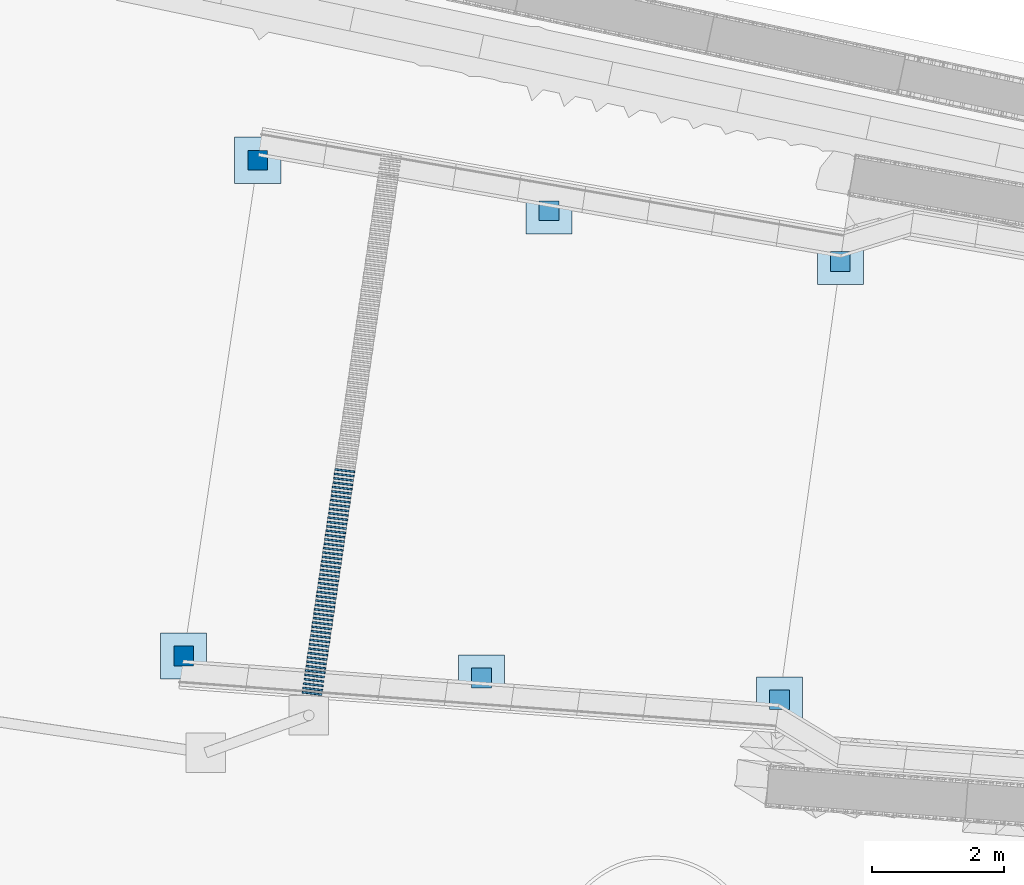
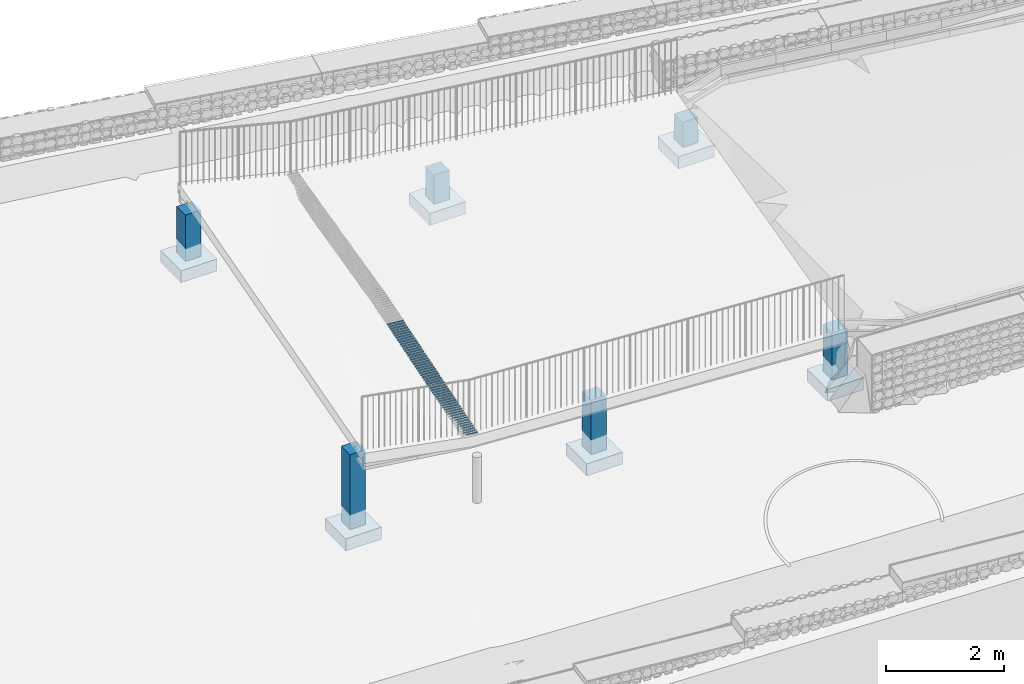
# Not in any storey, part 1 of 45: 52 members, 6 columns, 6 footings.
"""IFC4 model written with IfcOpenShell, lengths in metres."""

from ifc_helpers import new_model, si_unit, direction, frame, origin_with_axes, place, context, subcontext, project, spatial, polyline, rectangle, outline, extrude, material, material_profile, profile_set, profile_usage, type_object, element, save


model = new_model("IFC4")

# Units and contexts
model_context = context("Model", 3, precision=1e-05, world=origin_with_axes(), true_north=direction((0.0, 1.0)))
body_context = subcontext(model_context, "Body", "Model", "MODEL_VIEW")
ifc_project = project(units=[si_unit("VOLUMEUNIT", "CUBIC_METRE"), si_unit("LENGTHUNIT", "METRE"), si_unit("AREAUNIT", "SQUARE_METRE")], contexts=[model_context])

# Site
site_placement = place(None, origin_with_axes())
site = spatial("IfcSite", under=ifc_project, at=site_placement, Name="Lares · Rua das Mercês · artigo 4771")

# Footings
ifc_material_1 = material(Name="Betão armado / Stahlbeton", Category="concrete")
footing_1_placement = place(site_placement, frame((0.0369523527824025, 0.247253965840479, 13.743334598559), z_axis=(0.0, 0.0, 1.0), x_axis=(1.0, -1.03767253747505e-17, 0.0)))
element("IfcFooting", 1, at=footing_1_placement, inside=site, material=ifc_material_1, Name="Acesso · sapata pontual", PredefinedType="PAD_FOOTING", context=body_context, shape_type="SweptSolid", body=[
    extrude(outline(polyline([(47.0240474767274, 3.09962269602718), (47.0240474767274, 3.79962269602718), (46.3240474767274, 3.79962269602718), (46.3240474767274, 3.09962269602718), (47.0240474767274, 3.09962269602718)])), origin_with_axes(), (0.0, 0.0, 1.0), 0.25),
])
footing_2_placement = place(site_placement, frame((-0.0369523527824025, -0.247253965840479, 14.3342466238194), z_axis=(0.0, 0.0, 1.0), x_axis=(1.0, -1.03767253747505e-17, 0.0)))
element("IfcFooting", 2, at=footing_2_placement, inside=site, material=ifc_material_1, Name="Acesso · sapata pontual", PredefinedType="PAD_FOOTING", context=body_context, shape_type="SweptSolid", body=[
    extrude(outline(polyline([(48.2213037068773, 11.1106511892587), (48.2213037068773, 11.8106511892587), (47.5213037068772, 11.8106511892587), (47.5213037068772, 11.1106511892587), (48.2213037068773, 11.1106511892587)])), origin_with_axes(), (0.0, 0.0, 1.0), 0.25),
])
footing_3_placement = place(site_placement, frame((0.0357165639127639, 0.247435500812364, 13.9121434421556), z_axis=(0.0, 0.0, 1.0), x_axis=(1.0, -1.03767253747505e-17, 0.0)))
element("IfcFooting", 3, at=footing_3_placement, inside=site, material=ifc_material_1, Name="Acesso · sapata pontual", PredefinedType="PAD_FOOTING", context=body_context, shape_type="SweptSolid", body=[
    extrude(outline(polyline([(51.5422017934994, 2.76756522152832), (51.5422017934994, 3.46756522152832), (50.8422017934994, 3.46756522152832), (50.8422017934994, 2.76756522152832), (51.5422017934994, 2.76756522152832)])), origin_with_axes(), (0.0, 0.0, 1.0), 0.25),
])
footing_4_placement = place(site_placement, frame((-0.0357165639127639, -0.247435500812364, 14.435233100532), z_axis=(0.0, 0.0, 1.0), x_axis=(1.0, -1.03767253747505e-17, 0.0)))
element("IfcFooting", 4, at=footing_4_placement, inside=site, material=ifc_material_1, Name="Acesso · sapata pontual", PredefinedType="PAD_FOOTING", context=body_context, shape_type="SweptSolid", body=[
    extrude(outline(polyline([(52.6358100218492, 10.3438119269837), (52.6358100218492, 11.0438119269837), (51.9358100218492, 11.0438119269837), (51.9358100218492, 10.3438119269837), (52.6358100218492, 10.3438119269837)])), origin_with_axes(), (0.0, 0.0, 1.0), 0.25),
])
footing_5_placement = place(site_placement, frame((0.0343370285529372, 0.247630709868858, 14.0719073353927), z_axis=(0.0, 0.0, 1.0), x_axis=(1.0, -1.03767253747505e-17, 0.0)))
element("IfcFooting", 5, at=footing_5_placement, inside=site, material=ifc_material_1, Name="Acesso · sapata pontual", PredefinedType="PAD_FOOTING", context=body_context, shape_type="SweptSolid", body=[
    extrude(outline(polyline([(56.0602123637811, 2.43552142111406), (56.0602123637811, 3.13552142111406), (55.3602123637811, 3.13552142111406), (55.3602123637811, 2.43552142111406), (56.0602123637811, 2.43552142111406)])), origin_with_axes(), (0.0, 0.0, 1.0), 0.25),
])
footing_6_placement = place(site_placement, frame((-0.0343370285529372, -0.247630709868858, 14.5248343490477), z_axis=(0.0, 0.0, 1.0), x_axis=(1.0, -1.03767253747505e-17, 0.0)))
element("IfcFooting", 6, at=footing_6_placement, inside=site, material=ifc_material_1, Name="Acesso · sapata pontual", PredefinedType="PAD_FOOTING", context=body_context, shape_type="SweptSolid", body=[
    extrude(outline(polyline([(57.0504600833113, 9.57695899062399), (57.0504600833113, 10.276958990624), (56.3504600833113, 10.276958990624), (56.3504600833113, 9.57695899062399), (57.0504600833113, 9.57695899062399)])), origin_with_axes(), (0.0, 0.0, 1.0), 0.25),
])

# Columns
column_1_placement = place(site_placement, frame((0.0369523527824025, 0.247253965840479, 13.993334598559), z_axis=(0.0, 0.0, 1.0), x_axis=(1.0, -1.03767253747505e-17, 0.0)))
element("IfcColumn", 7, at=column_1_placement, inside=site, material=ifc_material_1, Name="Acesso · apoio do tabuleiro", context=body_context, shape_type="SweptSolid", body=[
    extrude(outline(polyline([(46.8240474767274, 3.29962269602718), (46.8240474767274, 3.59962269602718), (46.5240474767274, 3.59962269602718), (46.5240474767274, 3.29962269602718), (46.8240474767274, 3.29962269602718)])), origin_with_axes(), (0.0, 0.0, 1.0), 1.54666540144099),
])
column_2_placement = place(site_placement, frame((-0.0369523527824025, -0.247253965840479, 14.5842466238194), z_axis=(0.0, 0.0, 1.0), x_axis=(1.0, -1.03767253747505e-17, 0.0)))
element("IfcColumn", 8, at=column_2_placement, inside=site, material=ifc_material_1, Name="Acesso · apoio do tabuleiro", context=body_context, shape_type="SweptSolid", body=[
    extrude(outline(polyline([(48.0213037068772, 11.3106511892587), (48.0213037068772, 11.6106511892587), (47.7213037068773, 11.6106511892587), (47.7213037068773, 11.3106511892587), (48.0213037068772, 11.3106511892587)])), origin_with_axes(), (0.0, 0.0, 1.0), 0.95575337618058),
])
column_3_placement = place(site_placement, frame((0.0357165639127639, 0.247435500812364, 14.1621434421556), z_axis=(0.0, 0.0, 1.0), x_axis=(1.0, -1.03767253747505e-17, 0.0)))
element("IfcColumn", 9, at=column_3_placement, inside=site, material=ifc_material_1, Name="Acesso · apoio do tabuleiro", context=body_context, shape_type="SweptSolid", body=[
    extrude(outline(polyline([(51.3422017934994, 2.96756522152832), (51.3422017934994, 3.26756522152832), (51.0422017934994, 3.26756522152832), (51.0422017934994, 2.96756522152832), (51.3422017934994, 2.96756522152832)])), origin_with_axes(), (0.0, 0.0, 1.0), 1.12467194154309),
])
column_4_placement = place(site_placement, frame((-0.0357165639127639, -0.247435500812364, 14.685233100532), z_axis=(0.0, 0.0, 1.0), x_axis=(1.0, -1.03767253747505e-17, 0.0)))
element("IfcColumn", 10, at=column_4_placement, inside=site, material=ifc_material_1, Name="Acesso · apoio do tabuleiro", context=body_context, shape_type="SweptSolid", body=[
    extrude(outline(polyline([(52.4358100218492, 10.5438119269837), (52.4358100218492, 10.8438119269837), (52.1358100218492, 10.8438119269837), (52.1358100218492, 10.5438119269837), (52.4358100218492, 10.5438119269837)])), origin_with_axes(), (0.0, 0.0, 1.0), 0.601582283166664),
])
column_5_placement = place(site_placement, frame((0.0343370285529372, 0.247630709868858, 14.3219073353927), z_axis=(0.0, 0.0, 1.0), x_axis=(1.0, -1.03767253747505e-17, 0.0)))
element("IfcColumn", 11, at=column_5_placement, inside=site, material=ifc_material_1, Name="Acesso · apoio do tabuleiro", context=body_context, shape_type="SweptSolid", body=[
    extrude(outline(polyline([(55.8602123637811, 2.63552142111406), (55.8602123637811, 2.93552142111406), (55.5602123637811, 2.93552142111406), (55.5602123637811, 2.63552142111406), (55.8602123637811, 2.63552142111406)])), origin_with_axes(), (0.0, 0.0, 1.0), 0.97497059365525),
])
column_6_placement = place(site_placement, frame((-0.0343370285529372, -0.247630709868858, 14.7748343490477), z_axis=(0.0, 0.0, 1.0), x_axis=(1.0, -1.03767253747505e-17, 0.0)))
element("IfcColumn", 12, at=column_6_placement, inside=site, material=ifc_material_1, Name="Acesso · apoio do tabuleiro", context=body_context, shape_type="SweptSolid", body=[
    extrude(outline(polyline([(56.8504600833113, 9.77695899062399), (56.8504600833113, 10.076958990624), (56.5504600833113, 10.076958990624), (56.5504600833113, 9.77695899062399), (56.8504600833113, 9.77695899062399)])), origin_with_axes(), (0.0, 0.0, 1.0), 0.522043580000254),
])

# Members
ifc_material_2 = material(Name="Aço galvanizado / Stahl verzinkt", Category="steel")
ifc_material_profile = material_profile(ifc_material_2, rectangle(XDim=0.025, YDim=0.025))
ifc_profile_set = profile_set([ifc_material_profile], Name="R0.025")
ifc_profile_usage_1 = profile_usage(ifc_profile_set)
member_type = type_object("IfcMemberType", Name="R0.025 / galvanized", PredefinedType="NOTDEFINED", material=ifc_profile_set)
member_1_placement = place(site_placement, frame((48.5080199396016, 3.14897971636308, 15.4829738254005), z_axis=(0.992517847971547, -0.122099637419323, 0.0), x_axis=(-0.122099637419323, -0.992517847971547, 0.0)))
element("IfcMember", 13, at=member_1_placement, inside=site, type_object=member_type, material=ifc_profile_usage_1, Name="Interceção · grelha estacionamento", context=body_context, shape_type="SweptSolid", body=[
    extrude(rectangle(XDim=0.025, YDim=0.025), origin_with_axes(), (0.0, 0.0, 1.0), 0.300000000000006),
])
ifc_profile_usage_2 = profile_usage(ifc_profile_set)
member_2_placement = place(site_placement, frame((48.5177711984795, 3.21520290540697, 15.4829738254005), z_axis=(0.992517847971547, -0.122099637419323, 0.0), x_axis=(-0.122099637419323, -0.992517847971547, 0.0)))
element("IfcMember", 14, at=member_2_placement, inside=site, type_object=member_type, material=ifc_profile_usage_2, Name="Interceção · grelha estacionamento", context=body_context, shape_type="SweptSolid", body=[
    extrude(rectangle(XDim=0.025, YDim=0.025), origin_with_axes(), (0.0, 0.0, 1.0), 0.300000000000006),
])
ifc_profile_usage_3 = profile_usage(ifc_profile_set)
member_3_placement = place(site_placement, frame((48.5275224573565, 3.28142609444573, 15.4829738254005), z_axis=(0.992517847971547, -0.122099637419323, 0.0), x_axis=(-0.122099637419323, -0.992517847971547, 0.0)))
element("IfcMember", 15, at=member_3_placement, inside=site, type_object=member_type, material=ifc_profile_usage_3, Name="Interceção · grelha estacionamento", context=body_context, shape_type="SweptSolid", body=[
    extrude(rectangle(XDim=0.025, YDim=0.025), origin_with_axes(), (0.0, 0.0, 1.0), 0.300000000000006),
])
ifc_profile_usage_4 = profile_usage(ifc_profile_set)
member_4_placement = place(site_placement, frame((48.5372737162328, 3.34764928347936, 15.4829738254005), z_axis=(0.992517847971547, -0.122099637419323, 0.0), x_axis=(-0.122099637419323, -0.992517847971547, 0.0)))
element("IfcMember", 16, at=member_4_placement, inside=site, type_object=member_type, material=ifc_profile_usage_4, Name="Interceção · grelha estacionamento", context=body_context, shape_type="SweptSolid", body=[
    extrude(rectangle(XDim=0.025, YDim=0.025), origin_with_axes(), (0.0, 0.0, 1.0), 0.300000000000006),
])
ifc_profile_usage_5 = profile_usage(ifc_profile_set)
member_5_placement = place(site_placement, frame((48.5470249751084, 3.41387247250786, 15.4829738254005), z_axis=(0.992517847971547, -0.122099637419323, 0.0), x_axis=(-0.122099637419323, -0.992517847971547, 0.0)))
element("IfcMember", 17, at=member_5_placement, inside=site, type_object=member_type, material=ifc_profile_usage_5, Name="Interceção · grelha estacionamento", context=body_context, shape_type="SweptSolid", body=[
    extrude(rectangle(XDim=0.025, YDim=0.025), origin_with_axes(), (0.0, 0.0, 1.0), 0.300000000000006),
])
ifc_profile_usage_6 = profile_usage(ifc_profile_set)
member_6_placement = place(site_placement, frame((48.5567762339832, 3.48009566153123, 15.4829738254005), z_axis=(0.992517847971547, -0.122099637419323, 0.0), x_axis=(-0.122099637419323, -0.992517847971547, 0.0)))
element("IfcMember", 18, at=member_6_placement, inside=site, type_object=member_type, material=ifc_profile_usage_6, Name="Interceção · grelha estacionamento", context=body_context, shape_type="SweptSolid", body=[
    extrude(rectangle(XDim=0.025, YDim=0.025), origin_with_axes(), (0.0, 0.0, 1.0), 0.300000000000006),
])
ifc_profile_usage_7 = profile_usage(ifc_profile_set)
member_7_placement = place(site_placement, frame((48.5665274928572, 3.54631885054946, 15.4837238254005), z_axis=(0.992517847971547, -0.122099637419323, 0.0), x_axis=(-0.122099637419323, -0.992517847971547, 0.0)))
element("IfcMember", 19, at=member_7_placement, inside=site, type_object=member_type, material=ifc_profile_usage_7, Name="Interceção · grelha estacionamento", context=body_context, shape_type="SweptSolid", body=[
    extrude(rectangle(XDim=0.025, YDim=0.025), origin_with_axes(), (0.0, 0.0, 1.0), 0.300000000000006),
])
ifc_profile_usage_8 = profile_usage(ifc_profile_set)
member_8_placement = place(site_placement, frame((48.5762787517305, 3.61254203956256, 15.4855988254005), z_axis=(0.992517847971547, -0.122099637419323, 0.0), x_axis=(-0.122099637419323, -0.992517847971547, 0.0)))
element("IfcMember", 20, at=member_8_placement, inside=site, type_object=member_type, material=ifc_profile_usage_8, Name="Interceção · grelha estacionamento", context=body_context, shape_type="SweptSolid", body=[
    extrude(rectangle(XDim=0.025, YDim=0.025), origin_with_axes(), (0.0, 0.0, 1.0), 0.300000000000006),
])
ifc_profile_usage_9 = profile_usage(ifc_profile_set)
member_9_placement = place(site_placement, frame((48.5860300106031, 3.67876522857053, 15.4874738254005), z_axis=(0.992517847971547, -0.122099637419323, 0.0), x_axis=(-0.122099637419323, -0.992517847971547, 0.0)))
element("IfcMember", 21, at=member_9_placement, inside=site, type_object=member_type, material=ifc_profile_usage_9, Name="Interceção · grelha estacionamento", context=body_context, shape_type="SweptSolid", body=[
    extrude(rectangle(XDim=0.025, YDim=0.025), origin_with_axes(), (0.0, 0.0, 1.0), 0.300000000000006),
])
ifc_profile_usage_10 = profile_usage(ifc_profile_set)
member_10_placement = place(site_placement, frame((48.5957812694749, 3.74498841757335, 15.4893488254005), z_axis=(0.992517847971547, -0.122099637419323, 0.0), x_axis=(-0.122099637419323, -0.992517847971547, 0.0)))
element("IfcMember", 22, at=member_10_placement, inside=site, type_object=member_type, material=ifc_profile_usage_10, Name="Interceção · grelha estacionamento", context=body_context, shape_type="SweptSolid", body=[
    extrude(rectangle(XDim=0.025, YDim=0.025), origin_with_axes(), (0.0, 0.0, 1.0), 0.300000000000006),
])
ifc_profile_usage_11 = profile_usage(ifc_profile_set)
member_11_placement = place(site_placement, frame((48.6055325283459, 3.81121160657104, 15.4912238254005), z_axis=(0.992517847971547, -0.122099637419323, 0.0), x_axis=(-0.122099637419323, -0.992517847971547, 0.0)))
element("IfcMember", 23, at=member_11_placement, inside=site, type_object=member_type, material=ifc_profile_usage_11, Name="Interceção · grelha estacionamento", context=body_context, shape_type="SweptSolid", body=[
    extrude(rectangle(XDim=0.025, YDim=0.025), origin_with_axes(), (0.0, 0.0, 1.0), 0.300000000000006),
])
ifc_profile_usage_12 = profile_usage(ifc_profile_set)
member_12_placement = place(site_placement, frame((48.6152837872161, 3.87743479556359, 15.4930988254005), z_axis=(0.992517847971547, -0.122099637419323, 0.0), x_axis=(-0.122099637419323, -0.992517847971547, 0.0)))
element("IfcMember", 24, at=member_12_placement, inside=site, type_object=member_type, material=ifc_profile_usage_12, Name="Interceção · grelha estacionamento", context=body_context, shape_type="SweptSolid", body=[
    extrude(rectangle(XDim=0.025, YDim=0.025), origin_with_axes(), (0.0, 0.0, 1.0), 0.300000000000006),
])
ifc_profile_usage_13 = profile_usage(ifc_profile_set)
member_13_placement = place(site_placement, frame((48.6250350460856, 3.943657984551, 15.4949738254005), z_axis=(0.992517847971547, -0.122099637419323, 0.0), x_axis=(-0.122099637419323, -0.992517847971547, 0.0)))
element("IfcMember", 25, at=member_13_placement, inside=site, type_object=member_type, material=ifc_profile_usage_13, Name="Interceção · grelha estacionamento", context=body_context, shape_type="SweptSolid", body=[
    extrude(rectangle(XDim=0.025, YDim=0.025), origin_with_axes(), (0.0, 0.0, 1.0), 0.300000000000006),
])
ifc_profile_usage_14 = profile_usage(ifc_profile_set)
member_14_placement = place(site_placement, frame((48.6347863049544, 4.00988117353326, 15.4968488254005), z_axis=(0.992517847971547, -0.122099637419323, 0.0), x_axis=(-0.122099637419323, -0.992517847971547, 0.0)))
element("IfcMember", 26, at=member_14_placement, inside=site, type_object=member_type, material=ifc_profile_usage_14, Name="Interceção · grelha estacionamento", context=body_context, shape_type="SweptSolid", body=[
    extrude(rectangle(XDim=0.025, YDim=0.025), origin_with_axes(), (0.0, 0.0, 1.0), 0.300000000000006),
])
ifc_profile_usage_15 = profile_usage(ifc_profile_set)
member_15_placement = place(site_placement, frame((48.6445375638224, 4.07610436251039, 15.4987238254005), z_axis=(0.992517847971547, -0.122099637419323, 0.0), x_axis=(-0.122099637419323, -0.992517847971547, 0.0)))
element("IfcMember", 27, at=member_15_placement, inside=site, type_object=member_type, material=ifc_profile_usage_15, Name="Interceção · grelha estacionamento", context=body_context, shape_type="SweptSolid", body=[
    extrude(rectangle(XDim=0.025, YDim=0.025), origin_with_axes(), (0.0, 0.0, 1.0), 0.300000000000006),
])
ifc_profile_usage_16 = profile_usage(ifc_profile_set)
member_16_placement = place(site_placement, frame((48.6542888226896, 4.14232755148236, 15.5005988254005), z_axis=(0.992517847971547, -0.122099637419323, 0.0), x_axis=(-0.122099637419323, -0.992517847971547, 0.0)))
element("IfcMember", 28, at=member_16_placement, inside=site, type_object=member_type, material=ifc_profile_usage_16, Name="Interceção · grelha estacionamento", context=body_context, shape_type="SweptSolid", body=[
    extrude(rectangle(XDim=0.025, YDim=0.025), origin_with_axes(), (0.0, 0.0, 1.0), 0.300000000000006),
])
ifc_profile_usage_17 = profile_usage(ifc_profile_set)
member_17_placement = place(site_placement, frame((48.664040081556, 4.20855074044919, 15.5024738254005), z_axis=(0.992517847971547, -0.122099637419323, 0.0), x_axis=(-0.122099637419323, -0.992517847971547, 0.0)))
element("IfcMember", 29, at=member_17_placement, inside=site, type_object=member_type, material=ifc_profile_usage_17, Name="Interceção · grelha estacionamento", context=body_context, shape_type="SweptSolid", body=[
    extrude(rectangle(XDim=0.025, YDim=0.025), origin_with_axes(), (0.0, 0.0, 1.0), 0.300000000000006),
])
ifc_profile_usage_18 = profile_usage(ifc_profile_set)
member_18_placement = place(site_placement, frame((48.6737913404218, 4.27477392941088, 15.5043488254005), z_axis=(0.992517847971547, -0.122099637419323, 0.0), x_axis=(-0.122099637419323, -0.992517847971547, 0.0)))
element("IfcMember", 30, at=member_18_placement, inside=site, type_object=member_type, material=ifc_profile_usage_18, Name="Interceção · grelha estacionamento", context=body_context, shape_type="SweptSolid", body=[
    extrude(rectangle(XDim=0.025, YDim=0.025), origin_with_axes(), (0.0, 0.0, 1.0), 0.300000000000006),
])
ifc_profile_usage_19 = profile_usage(ifc_profile_set)
member_19_placement = place(site_placement, frame((48.6835425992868, 4.34099711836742, 15.5062238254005), z_axis=(0.992517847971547, -0.122099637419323, 0.0), x_axis=(-0.122099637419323, -0.992517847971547, 0.0)))
element("IfcMember", 31, at=member_19_placement, inside=site, type_object=member_type, material=ifc_profile_usage_19, Name="Interceção · grelha estacionamento", context=body_context, shape_type="SweptSolid", body=[
    extrude(rectangle(XDim=0.025, YDim=0.025), origin_with_axes(), (0.0, 0.0, 1.0), 0.300000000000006),
])
ifc_profile_usage_20 = profile_usage(ifc_profile_set)
member_20_placement = place(site_placement, frame((48.693293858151, 4.4072203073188, 15.5080988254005), z_axis=(0.992517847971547, -0.12209963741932, 0.0), x_axis=(-0.12209963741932, -0.992517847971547, 0.0)))
element("IfcMember", 32, at=member_20_placement, inside=site, type_object=member_type, material=ifc_profile_usage_20, Name="Interceção · grelha estacionamento", context=body_context, shape_type="SweptSolid", body=[
    extrude(rectangle(XDim=0.025, YDim=0.025), origin_with_axes(), (0.0, 0.0, 1.0), 0.300000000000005),
])
ifc_profile_usage_21 = profile_usage(ifc_profile_set)
member_21_placement = place(site_placement, frame((48.7030451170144, 4.47344349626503, 15.5099738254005), z_axis=(0.992517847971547, -0.12209963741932, 0.0), x_axis=(-0.12209963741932, -0.992517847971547, 0.0)))
element("IfcMember", 33, at=member_21_placement, inside=site, type_object=member_type, material=ifc_profile_usage_21, Name="Interceção · grelha estacionamento", context=body_context, shape_type="SweptSolid", body=[
    extrude(rectangle(XDim=0.025, YDim=0.025), origin_with_axes(), (0.0, 0.0, 1.0), 0.300000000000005),
])
ifc_profile_usage_22 = profile_usage(ifc_profile_set)
member_22_placement = place(site_placement, frame((48.7127963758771, 4.53966668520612, 15.5118488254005), z_axis=(0.992517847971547, -0.12209963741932, 0.0), x_axis=(-0.12209963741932, -0.992517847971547, 0.0)))
element("IfcMember", 34, at=member_22_placement, inside=site, type_object=member_type, material=ifc_profile_usage_22, Name="Interceção · grelha estacionamento", context=body_context, shape_type="SweptSolid", body=[
    extrude(rectangle(XDim=0.025, YDim=0.025), origin_with_axes(), (0.0, 0.0, 1.0), 0.300000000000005),
])
ifc_profile_usage_23 = profile_usage(ifc_profile_set)
member_23_placement = place(site_placement, frame((48.722547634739, 4.60588987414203, 15.5137238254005), z_axis=(0.992517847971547, -0.12209963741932, 0.0), x_axis=(-0.12209963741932, -0.992517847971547, 0.0)))
element("IfcMember", 35, at=member_23_placement, inside=site, type_object=member_type, material=ifc_profile_usage_23, Name="Interceção · grelha estacionamento", context=body_context, shape_type="SweptSolid", body=[
    extrude(rectangle(XDim=0.025, YDim=0.025), origin_with_axes(), (0.0, 0.0, 1.0), 0.300000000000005),
])
ifc_profile_usage_24 = profile_usage(ifc_profile_set)
member_24_placement = place(site_placement, frame((48.7322988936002, 4.67211306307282, 15.5155988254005), z_axis=(0.992517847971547, -0.12209963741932, 0.0), x_axis=(-0.12209963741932, -0.992517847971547, 0.0)))
element("IfcMember", 36, at=member_24_placement, inside=site, type_object=member_type, material=ifc_profile_usage_24, Name="Interceção · grelha estacionamento", context=body_context, shape_type="SweptSolid", body=[
    extrude(rectangle(XDim=0.025, YDim=0.025), origin_with_axes(), (0.0, 0.0, 1.0), 0.300000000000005),
])
ifc_profile_usage_25 = profile_usage(ifc_profile_set)
member_25_placement = place(site_placement, frame((48.7420501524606, 4.73833625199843, 15.5174738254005), z_axis=(0.992517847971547, -0.12209963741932, 0.0), x_axis=(-0.12209963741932, -0.992517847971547, 0.0)))
element("IfcMember", 37, at=member_25_placement, inside=site, type_object=member_type, material=ifc_profile_usage_25, Name="Interceção · grelha estacionamento", context=body_context, shape_type="SweptSolid", body=[
    extrude(rectangle(XDim=0.025, YDim=0.025), origin_with_axes(), (0.0, 0.0, 1.0), 0.300000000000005),
])
ifc_profile_usage_26 = profile_usage(ifc_profile_set)
member_26_placement = place(site_placement, frame((48.7518014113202, 4.80455944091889, 15.5193488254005), z_axis=(0.992517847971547, -0.12209963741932, 0.0), x_axis=(-0.12209963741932, -0.992517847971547, 0.0)))
element("IfcMember", 38, at=member_26_placement, inside=site, type_object=member_type, material=ifc_profile_usage_26, Name="Interceção · grelha estacionamento", context=body_context, shape_type="SweptSolid", body=[
    extrude(rectangle(XDim=0.025, YDim=0.025), origin_with_axes(), (0.0, 0.0, 1.0), 0.300000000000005),
])
ifc_profile_usage_27 = profile_usage(ifc_profile_set)
member_27_placement = place(site_placement, frame((48.7615526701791, 4.87078262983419, 15.5212238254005), z_axis=(0.992517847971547, -0.12209963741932, 0.0), x_axis=(-0.12209963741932, -0.992517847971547, 0.0)))
element("IfcMember", 39, at=member_27_placement, inside=site, type_object=member_type, material=ifc_profile_usage_27, Name="Interceção · grelha estacionamento", context=body_context, shape_type="SweptSolid", body=[
    extrude(rectangle(XDim=0.025, YDim=0.025), origin_with_axes(), (0.0, 0.0, 1.0), 0.300000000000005),
])
ifc_profile_usage_28 = profile_usage(ifc_profile_set)
member_28_placement = place(site_placement, frame((48.7713039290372, 4.93700581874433, 15.5230988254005), z_axis=(0.992517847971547, -0.12209963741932, 0.0), x_axis=(-0.12209963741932, -0.992517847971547, 0.0)))
element("IfcMember", 40, at=member_28_placement, inside=site, type_object=member_type, material=ifc_profile_usage_28, Name="Interceção · grelha estacionamento", context=body_context, shape_type="SweptSolid", body=[
    extrude(rectangle(XDim=0.025, YDim=0.025), origin_with_axes(), (0.0, 0.0, 1.0), 0.300000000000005),
])
ifc_profile_usage_29 = profile_usage(ifc_profile_set)
member_29_placement = place(site_placement, frame((48.7810551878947, 5.00322900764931, 15.5249738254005), z_axis=(0.992517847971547, -0.12209963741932, 0.0), x_axis=(-0.12209963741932, -0.992517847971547, 0.0)))
element("IfcMember", 41, at=member_29_placement, inside=site, type_object=member_type, material=ifc_profile_usage_29, Name="Interceção · grelha estacionamento", context=body_context, shape_type="SweptSolid", body=[
    extrude(rectangle(XDim=0.025, YDim=0.025), origin_with_axes(), (0.0, 0.0, 1.0), 0.300000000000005),
])
ifc_profile_usage_30 = profile_usage(ifc_profile_set)
member_30_placement = place(site_placement, frame((48.7908064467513, 5.06945219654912, 15.5268488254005), z_axis=(0.992517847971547, -0.12209963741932, 0.0), x_axis=(-0.12209963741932, -0.992517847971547, 0.0)))
element("IfcMember", 42, at=member_30_placement, inside=site, type_object=member_type, material=ifc_profile_usage_30, Name="Interceção · grelha estacionamento", context=body_context, shape_type="SweptSolid", body=[
    extrude(rectangle(XDim=0.025, YDim=0.025), origin_with_axes(), (0.0, 0.0, 1.0), 0.300000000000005),
])
ifc_profile_usage_31 = profile_usage(ifc_profile_set)
member_31_placement = place(site_placement, frame((48.8005577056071, 5.13567538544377, 15.5287238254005), z_axis=(0.992517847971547, -0.12209963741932, 0.0), x_axis=(-0.12209963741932, -0.992517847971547, 0.0)))
element("IfcMember", 43, at=member_31_placement, inside=site, type_object=member_type, material=ifc_profile_usage_31, Name="Interceção · grelha estacionamento", context=body_context, shape_type="SweptSolid", body=[
    extrude(rectangle(XDim=0.025, YDim=0.025), origin_with_axes(), (0.0, 0.0, 1.0), 0.300000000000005),
])
ifc_profile_usage_32 = profile_usage(ifc_profile_set)
member_32_placement = place(site_placement, frame((48.8103089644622, 5.20189857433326, 15.5305988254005), z_axis=(0.992517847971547, -0.12209963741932, 0.0), x_axis=(-0.12209963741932, -0.992517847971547, 0.0)))
element("IfcMember", 44, at=member_32_placement, inside=site, type_object=member_type, material=ifc_profile_usage_32, Name="Interceção · grelha estacionamento", context=body_context, shape_type="SweptSolid", body=[
    extrude(rectangle(XDim=0.025, YDim=0.025), origin_with_axes(), (0.0, 0.0, 1.0), 0.300000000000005),
])
ifc_profile_usage_33 = profile_usage(ifc_profile_set)
member_33_placement = place(site_placement, frame((48.8200602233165, 5.26812176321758, 15.5324738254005), z_axis=(0.992517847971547, -0.12209963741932, 0.0), x_axis=(-0.12209963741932, -0.992517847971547, 0.0)))
element("IfcMember", 45, at=member_33_placement, inside=site, type_object=member_type, material=ifc_profile_usage_33, Name="Interceção · grelha estacionamento", context=body_context, shape_type="SweptSolid", body=[
    extrude(rectangle(XDim=0.025, YDim=0.025), origin_with_axes(), (0.0, 0.0, 1.0), 0.300000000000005),
])
ifc_profile_usage_34 = profile_usage(ifc_profile_set)
member_34_placement = place(site_placement, frame((48.8298114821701, 5.33434495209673, 15.5343488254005), z_axis=(0.992517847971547, -0.12209963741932, 0.0), x_axis=(-0.12209963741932, -0.992517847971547, 0.0)))
element("IfcMember", 46, at=member_34_placement, inside=site, type_object=member_type, material=ifc_profile_usage_34, Name="Interceção · grelha estacionamento", context=body_context, shape_type="SweptSolid", body=[
    extrude(rectangle(XDim=0.025, YDim=0.025), origin_with_axes(), (0.0, 0.0, 1.0), 0.300000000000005),
])
ifc_profile_usage_35 = profile_usage(ifc_profile_set)
member_35_placement = place(site_placement, frame((48.8395627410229, 5.40056814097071, 15.5362238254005), z_axis=(0.992517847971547, -0.12209963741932, 0.0), x_axis=(-0.12209963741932, -0.992517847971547, 0.0)))
element("IfcMember", 47, at=member_35_placement, inside=site, type_object=member_type, material=ifc_profile_usage_35, Name="Interceção · grelha estacionamento", context=body_context, shape_type="SweptSolid", body=[
    extrude(rectangle(XDim=0.025, YDim=0.025), origin_with_axes(), (0.0, 0.0, 1.0), 0.300000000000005),
])
ifc_profile_usage_36 = profile_usage(ifc_profile_set)
member_36_placement = place(site_placement, frame((48.8493139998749, 5.46679132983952, 15.5380988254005), z_axis=(0.992517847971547, -0.12209963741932, 0.0), x_axis=(-0.12209963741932, -0.992517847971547, 0.0)))
element("IfcMember", 48, at=member_36_placement, inside=site, type_object=member_type, material=ifc_profile_usage_36, Name="Interceção · grelha estacionamento", context=body_context, shape_type="SweptSolid", body=[
    extrude(rectangle(XDim=0.025, YDim=0.025), origin_with_axes(), (0.0, 0.0, 1.0), 0.300000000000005),
])
ifc_profile_usage_37 = profile_usage(ifc_profile_set)
member_37_placement = place(site_placement, frame((48.8590652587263, 5.53301451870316, 15.5399738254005), z_axis=(0.992517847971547, -0.12209963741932, 0.0), x_axis=(-0.12209963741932, -0.992517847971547, 0.0)))
element("IfcMember", 49, at=member_37_placement, inside=site, type_object=member_type, material=ifc_profile_usage_37, Name="Interceção · grelha estacionamento", context=body_context, shape_type="SweptSolid", body=[
    extrude(rectangle(XDim=0.025, YDim=0.025), origin_with_axes(), (0.0, 0.0, 1.0), 0.300000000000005),
])
ifc_profile_usage_38 = profile_usage(ifc_profile_set)
member_38_placement = place(site_placement, frame((48.8688165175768, 5.59923770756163, 15.5418488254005), z_axis=(0.992517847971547, -0.12209963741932, 0.0), x_axis=(-0.12209963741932, -0.992517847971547, 0.0)))
element("IfcMember", 50, at=member_38_placement, inside=site, type_object=member_type, material=ifc_profile_usage_38, Name="Interceção · grelha estacionamento", context=body_context, shape_type="SweptSolid", body=[
    extrude(rectangle(XDim=0.025, YDim=0.025), origin_with_axes(), (0.0, 0.0, 1.0), 0.300000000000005),
])
ifc_profile_usage_39 = profile_usage(ifc_profile_set)
member_39_placement = place(site_placement, frame((48.8785677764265, 5.66546089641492, 15.5437238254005), z_axis=(0.992517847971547, -0.12209963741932, 0.0), x_axis=(-0.12209963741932, -0.992517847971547, 0.0)))
element("IfcMember", 51, at=member_39_placement, inside=site, type_object=member_type, material=ifc_profile_usage_39, Name="Interceção · grelha estacionamento", context=body_context, shape_type="SweptSolid", body=[
    extrude(rectangle(XDim=0.025, YDim=0.025), origin_with_axes(), (0.0, 0.0, 1.0), 0.300000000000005),
])
ifc_profile_usage_40 = profile_usage(ifc_profile_set)
member_40_placement = place(site_placement, frame((48.8883190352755, 5.73168408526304, 15.5455988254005), z_axis=(0.992517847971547, -0.12209963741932, 0.0), x_axis=(-0.12209963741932, -0.992517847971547, 0.0)))
element("IfcMember", 52, at=member_40_placement, inside=site, type_object=member_type, material=ifc_profile_usage_40, Name="Interceção · grelha estacionamento", context=body_context, shape_type="SweptSolid", body=[
    extrude(rectangle(XDim=0.025, YDim=0.025), origin_with_axes(), (0.0, 0.0, 1.0), 0.300000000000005),
])
ifc_profile_usage_41 = profile_usage(ifc_profile_set)
member_41_placement = place(site_placement, frame((48.8980702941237, 5.79790727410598, 15.5474738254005), z_axis=(0.992517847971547, -0.12209963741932, 0.0), x_axis=(-0.12209963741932, -0.992517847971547, 0.0)))
element("IfcMember", 53, at=member_41_placement, inside=site, type_object=member_type, material=ifc_profile_usage_41, Name="Interceção · grelha estacionamento", context=body_context, shape_type="SweptSolid", body=[
    extrude(rectangle(XDim=0.025, YDim=0.025), origin_with_axes(), (0.0, 0.0, 1.0), 0.300000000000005),
])
ifc_profile_usage_42 = profile_usage(ifc_profile_set)
member_42_placement = place(site_placement, frame((48.9078215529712, 5.86413046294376, 15.5493488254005), z_axis=(0.992517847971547, -0.12209963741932, 0.0), x_axis=(-0.12209963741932, -0.992517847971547, 0.0)))
element("IfcMember", 54, at=member_42_placement, inside=site, type_object=member_type, material=ifc_profile_usage_42, Name="Interceção · grelha estacionamento", context=body_context, shape_type="SweptSolid", body=[
    extrude(rectangle(XDim=0.025, YDim=0.025), origin_with_axes(), (0.0, 0.0, 1.0), 0.300000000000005),
])
ifc_profile_usage_43 = profile_usage(ifc_profile_set)
member_43_placement = place(site_placement, frame((48.9175728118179, 5.93035365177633, 15.5512238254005), z_axis=(0.992517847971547, -0.12209963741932, 0.0), x_axis=(-0.12209963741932, -0.992517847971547, 0.0)))
element("IfcMember", 55, at=member_43_placement, inside=site, type_object=member_type, material=ifc_profile_usage_43, Name="Interceção · grelha estacionamento", context=body_context, shape_type="SweptSolid", body=[
    extrude(rectangle(XDim=0.025, YDim=0.025), origin_with_axes(), (0.0, 0.0, 1.0), 0.300000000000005),
])
ifc_profile_usage_44 = profile_usage(ifc_profile_set)
member_44_placement = place(site_placement, frame((48.9273240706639, 5.99657684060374, 15.5530988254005), z_axis=(0.992517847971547, -0.12209963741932, 0.0), x_axis=(-0.12209963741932, -0.992517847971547, 0.0)))
element("IfcMember", 56, at=member_44_placement, inside=site, type_object=member_type, material=ifc_profile_usage_44, Name="Interceção · grelha estacionamento", context=body_context, shape_type="SweptSolid", body=[
    extrude(rectangle(XDim=0.025, YDim=0.025), origin_with_axes(), (0.0, 0.0, 1.0), 0.300000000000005),
])
ifc_profile_usage_45 = profile_usage(ifc_profile_set)
member_45_placement = place(site_placement, frame((48.937075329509, 6.06280002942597, 15.5549738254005), z_axis=(0.992517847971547, -0.12209963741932, 0.0), x_axis=(-0.12209963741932, -0.992517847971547, 0.0)))
element("IfcMember", 57, at=member_45_placement, inside=site, type_object=member_type, material=ifc_profile_usage_45, Name="Interceção · grelha estacionamento", context=body_context, shape_type="SweptSolid", body=[
    extrude(rectangle(XDim=0.025, YDim=0.025), origin_with_axes(), (0.0, 0.0, 1.0), 0.300000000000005),
])
ifc_profile_usage_46 = profile_usage(ifc_profile_set)
member_46_placement = place(site_placement, frame((48.9468265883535, 6.12902321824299, 15.5568488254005), z_axis=(0.992517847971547, -0.12209963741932, 0.0), x_axis=(-0.12209963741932, -0.992517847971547, 0.0)))
element("IfcMember", 58, at=member_46_placement, inside=site, type_object=member_type, material=ifc_profile_usage_46, Name="Interceção · grelha estacionamento", context=body_context, shape_type="SweptSolid", body=[
    extrude(rectangle(XDim=0.025, YDim=0.025), origin_with_axes(), (0.0, 0.0, 1.0), 0.300000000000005),
])
ifc_profile_usage_47 = profile_usage(ifc_profile_set)
member_47_placement = place(site_placement, frame((48.9565778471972, 6.19524640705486, 15.5587238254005), z_axis=(0.992517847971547, -0.12209963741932, 0.0), x_axis=(-0.12209963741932, -0.992517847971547, 0.0)))
element("IfcMember", 59, at=member_47_placement, inside=site, type_object=member_type, material=ifc_profile_usage_47, Name="Interceção · grelha estacionamento", context=body_context, shape_type="SweptSolid", body=[
    extrude(rectangle(XDim=0.025, YDim=0.025), origin_with_axes(), (0.0, 0.0, 1.0), 0.300000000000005),
])
ifc_profile_usage_48 = profile_usage(ifc_profile_set)
member_48_placement = place(site_placement, frame((48.9663291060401, 6.26146959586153, 15.5605988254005), z_axis=(0.992517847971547, -0.12209963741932, 0.0), x_axis=(-0.12209963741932, -0.992517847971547, 0.0)))
element("IfcMember", 60, at=member_48_placement, inside=site, type_object=member_type, material=ifc_profile_usage_48, Name="Interceção · grelha estacionamento", context=body_context, shape_type="SweptSolid", body=[
    extrude(rectangle(XDim=0.025, YDim=0.025), origin_with_axes(), (0.0, 0.0, 1.0), 0.300000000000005),
])
ifc_profile_usage_49 = profile_usage(ifc_profile_set)
member_49_placement = place(site_placement, frame((48.9760803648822, 6.327692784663, 15.5624738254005), z_axis=(0.992517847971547, -0.12209963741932, 0.0), x_axis=(-0.12209963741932, -0.992517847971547, 0.0)))
element("IfcMember", 61, at=member_49_placement, inside=site, type_object=member_type, material=ifc_profile_usage_49, Name="Interceção · grelha estacionamento", context=body_context, shape_type="SweptSolid", body=[
    extrude(rectangle(XDim=0.025, YDim=0.025), origin_with_axes(), (0.0, 0.0, 1.0), 0.300000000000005),
])
ifc_profile_usage_50 = profile_usage(ifc_profile_set)
member_50_placement = place(site_placement, frame((48.9858316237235, 6.3939159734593, 15.5643488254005), z_axis=(0.992517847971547, -0.12209963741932, 0.0), x_axis=(-0.12209963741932, -0.992517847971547, 0.0)))
element("IfcMember", 62, at=member_50_placement, inside=site, type_object=member_type, material=ifc_profile_usage_50, Name="Interceção · grelha estacionamento", context=body_context, shape_type="SweptSolid", body=[
    extrude(rectangle(XDim=0.025, YDim=0.025), origin_with_axes(), (0.0, 0.0, 1.0), 0.300000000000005),
])
ifc_profile_usage_51 = profile_usage(ifc_profile_set)
member_51_placement = place(site_placement, frame((48.9955828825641, 6.4601391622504, 15.5662238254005), z_axis=(0.992517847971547, -0.12209963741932, 0.0), x_axis=(-0.12209963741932, -0.992517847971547, 0.0)))
element("IfcMember", 63, at=member_51_placement, inside=site, type_object=member_type, material=ifc_profile_usage_51, Name="Interceção · grelha estacionamento", context=body_context, shape_type="SweptSolid", body=[
    extrude(rectangle(XDim=0.025, YDim=0.025), origin_with_axes(), (0.0, 0.0, 1.0), 0.300000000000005),
])
ifc_profile_usage_52 = profile_usage(ifc_profile_set)
member_52_placement = place(site_placement, frame((49.005334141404, 6.52636235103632, 15.5680988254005), z_axis=(0.992517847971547, -0.12209963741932, 0.0), x_axis=(-0.12209963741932, -0.992517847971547, 0.0)))
element("IfcMember", 64, at=member_52_placement, inside=site, type_object=member_type, material=ifc_profile_usage_52, Name="Interceção · grelha estacionamento", context=body_context, shape_type="SweptSolid", body=[
    extrude(rectangle(XDim=0.025, YDim=0.025), origin_with_axes(), (0.0, 0.0, 1.0), 0.300000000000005),
])

save(model, "model.ifc")
